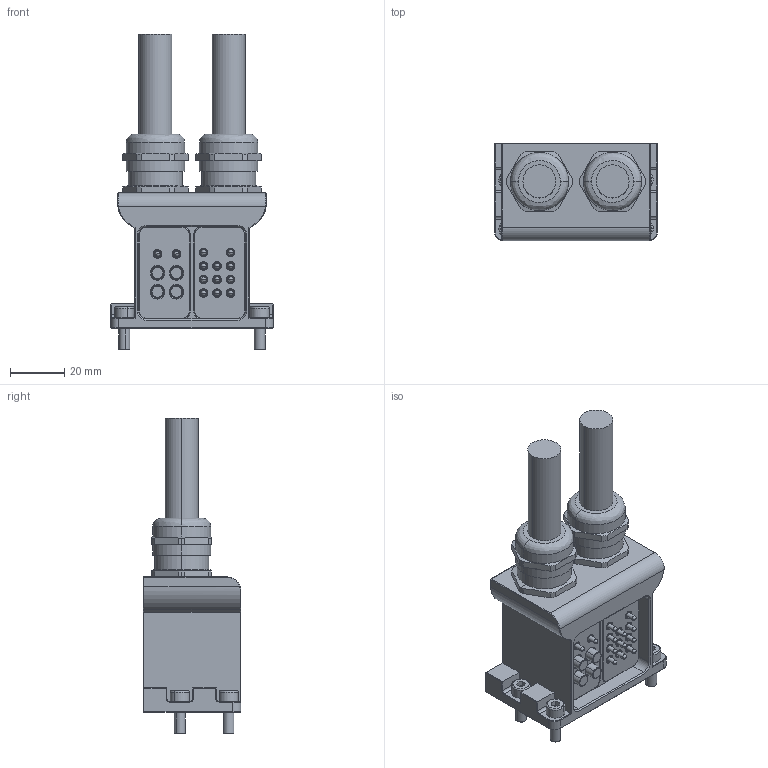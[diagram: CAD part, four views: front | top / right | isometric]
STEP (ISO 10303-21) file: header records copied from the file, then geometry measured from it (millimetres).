
FILE_DESCRIPTION (( 'STEP AP203' ), '1' );
FILE_NAME ('伺服总成模块G(直出线).STEP', '2025-02-20T00:41:40', ( 'Windows 用户' ), ( 'Organization' ), 'SwSTEP 2.0', 'SolidWorks 2018', '' );
FILE_SCHEMA (( 'CONFIG_CONTROL_DESIGN' ));
Length unit declared in the file: millimetre
Products named in the file (1): 伺服总成模块G(直出线)
Bounding box: 60 x 36 x 116.7 mm (x, y, z)
Volume: 102372.8 mm3; surface area: 22959.9 mm2
Topology: 1 solids, 1 shells, 663 faces, 1514 edges, 917 vertices
Faces by surface type: plane 246, cylinder 241, cone 128, sphere 26, torus 16, bspline 6
Entity records: 18705 total; most frequent: CARTESIAN_POINT 3599, DIRECTION 3418, ORIENTED_EDGE 2900, EDGE_CURVE 1450, AXIS2_PLACEMENT_3D 1354, VERTEX_POINT 891, EDGE_LOOP 765, VECTOR 710
